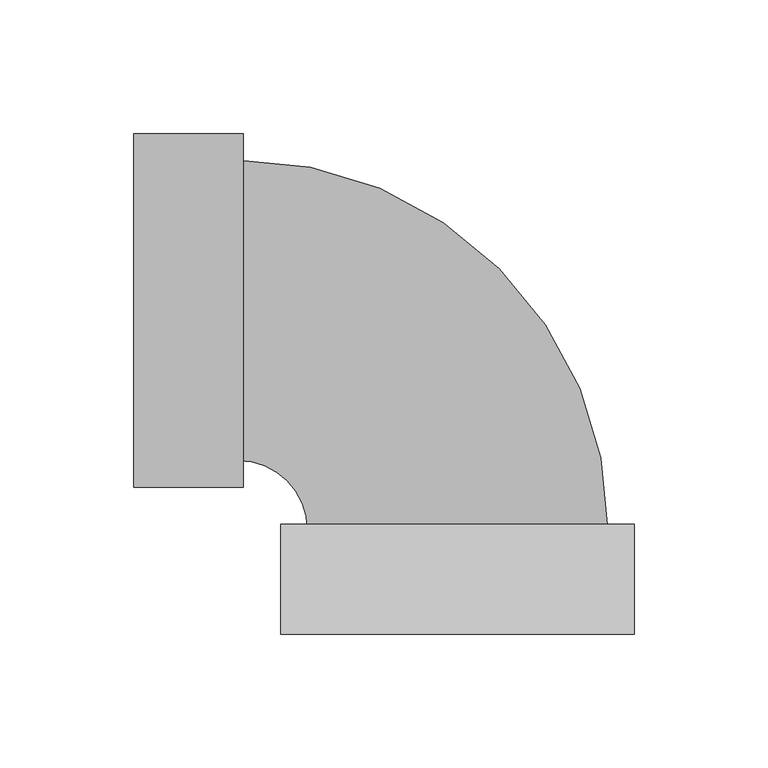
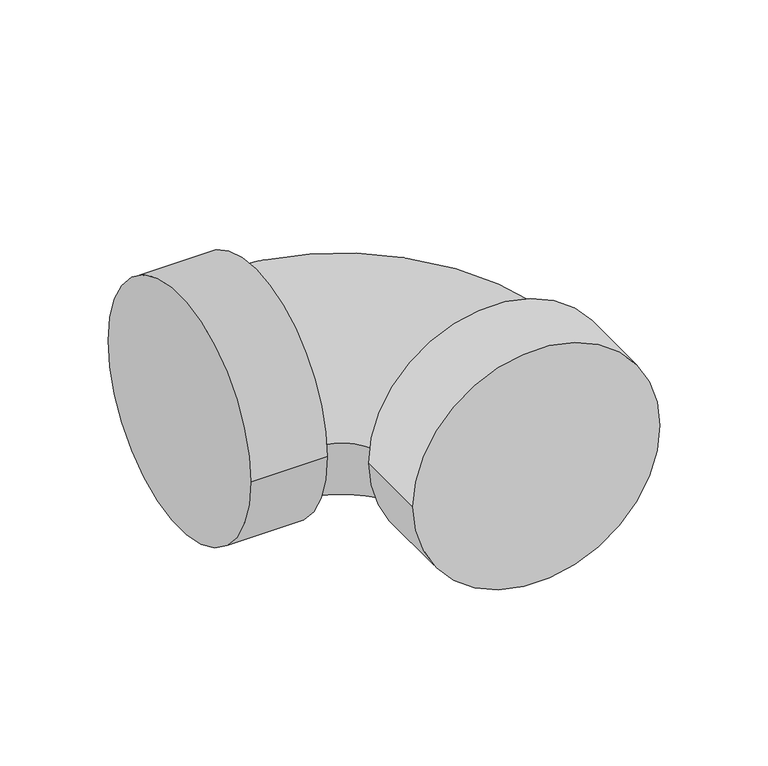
"""IFC4 building model written with IfcOpenShell, lengths in millimetres: pipe fitting geometry, 01011001 : Codos 90º."""

from ifc_helpers import new_model, si_unit, point, frame, origin, origin_2d, place, context, project, spatial, circle_curve, ellipse_curve, trimmed, segment, composite_curve, outline, extrude, source, transform, mapped, element, save
from ifc_brep_helpers import plane_surface, revolved_surface, advanced_brep


def pipe_fitting_32589ac4(model_context):
    return source(origin(), model_context, "Body", "SolidModel", [
        extrude(outline(composite_curve([segment(trimmed(circle_curve(origin_2d(), 66.0), [point((0.0, -66.0))], [point((0.0, 66.0))], False, "CARTESIAN"), True, "CONTINUOUS"), segment(trimmed(circle_curve(origin_2d(), 66.0), [point((0.0, 66.0))], [point((0.0, -66.0))], False, "CARTESIAN"), True, "CONTINUOUS")], self_intersect=False)), frame((0.0, -121.0, 0.0), z_axis=(0.0, 1.0, 0.0), x_axis=(0.0, 0.0, 1.0)), (0.0, 0.0, 1.0), 41.0),
        extrude(outline(composite_curve([segment(trimmed(circle_curve(origin_2d(), 66.0), [point((66.0, 0.0))], [point((-66.0, 0.0))], False, "CARTESIAN"), True, "CONTINUOUS"), segment(trimmed(circle_curve(origin_2d(), 66.0), [point((-66.0, 0.0))], [point((66.0, 0.0))], False, "CARTESIAN"), True, "CONTINUOUS")], self_intersect=False)), frame((-121.0, 0.0, 0.0), z_axis=(1.0, 0.0, 0.0), x_axis=(0.0, 1.0, 0.0)), (0.0, 0.0, 1.0), 41.0),
        advanced_brep(
        [(-56.1, -82.0, 0.0), (56.1, -82.0, 0.0), (-82.0, -56.1, 0.0), (-82.0, 56.1, 0.0)],
        [
            (0, 1, circle_curve(frame((0.0, -82.0, 0.0), z_axis=(0.0, -1.0, 0.0), x_axis=(1.0, 0.0, 0.0)), 56.1)),
            (1, 0, circle_curve(frame((0.0, -82.0, 0.0), z_axis=(0.0, -1.0, 0.0), x_axis=(1.0, 0.0, 0.0)), 56.1)),
            (2, 3, circle_curve(frame((-82.0, 0.0, 0.0), z_axis=(-1.0, 0.0, 0.0), x_axis=(0.0, 1.0, 0.0)), 56.1)),
            (3, 2, circle_curve(frame((-82.0, 0.0, 0.0), z_axis=(-1.0, 0.0, 0.0), x_axis=(0.0, 1.0, 0.0)), 56.1)),
            (2, 0, circle_curve(frame((-82.0, -82.0, 0.0), z_axis=(0.0, 0.0, -1.0), x_axis=(1.0, 0.0, 0.0)), 25.9)),
            (1, 3, circle_curve(frame((-82.0, -82.0, 0.0), z_axis=(0.0, 0.0, 1.0), x_axis=(1.0, 0.0, 0.0)), 138.1)),
        ],
        [
            plane_surface(frame((0.0, -82.0, 0.0), z_axis=(0.0, -1.0, 0.0), x_axis=(0.0, 0.0, 1.0))),
            plane_surface(frame((-82.0, 0.0, 0.0), z_axis=(-1.0, 0.0, 0.0), x_axis=(0.0, 0.0, 1.0))),
            revolved_surface(trimmed(ellipse_curve(frame((0.0, -82.0, 0.0), z_axis=(0.0, 1.0, 0.0), x_axis=(1.0, 0.0, 0.0)), 56.1, 56.1), [point((-56.1, -82.0, 0.0))], [point((56.1, -82.0, 0.0))], True, "CARTESIAN"), (-82.0, -82.0, 0.0), (0.0, 0.0, -1.0)),
            revolved_surface(trimmed(ellipse_curve(frame((0.0, -82.0, 0.0), z_axis=(0.0, 1.0, 0.0), x_axis=(1.0, 0.0, 0.0)), 56.1, 56.1), [point((56.1, -82.0, 0.0))], [point((-56.1, -82.0, 0.0))], True, "CARTESIAN"), (-82.0, -82.0, 0.0), (0.0, 0.0, -1.0)),
        ],
        [
            (0, [[1, 2]]),
            (1, [[3, 4]]),
            (2, [[-3, 5, -2, 6]]),
            (3, [[-4, -6, -1, -5]]),
        ],
    ),
    ])


if __name__ == "__main__":
    model = new_model("IFC4")
    model_context = context("Model", 3, world=origin())
    ifc_project = project(units=[si_unit("LENGTHUNIT", "METRE", prefix="MILLI")], contexts=[model_context])
    site = spatial("IfcSite", under=ifc_project)
    building = spatial("IfcBuilding", under=site)
    placement = place(None, origin())
    pipe_fitting_shape = pipe_fitting_32589ac4(model_context)
    element("IfcPipeFitting", 1, ObjectType="01011001 : Codos 90º", at=placement, inside=building, context=model_context, shape_type="MappedRepresentation", body=[
        mapped(pipe_fitting_shape, transform((0.0, 0.0, 0.0), x_axis=(1.0, 0.0, 0.0), y_axis=(0.0, 1.0, 0.0), z_axis=(0.0, 0.0, 1.0))),
    ])
    save(model, "model.ifc")
